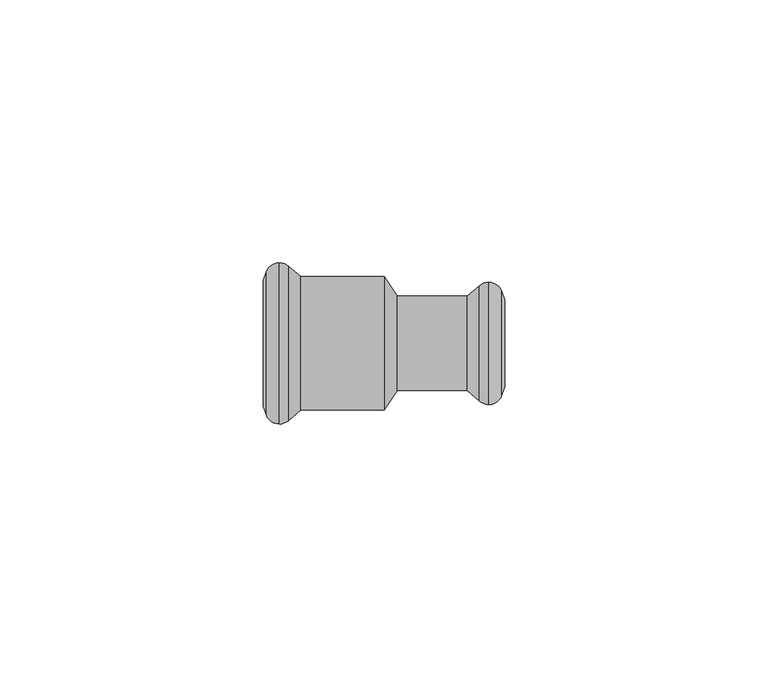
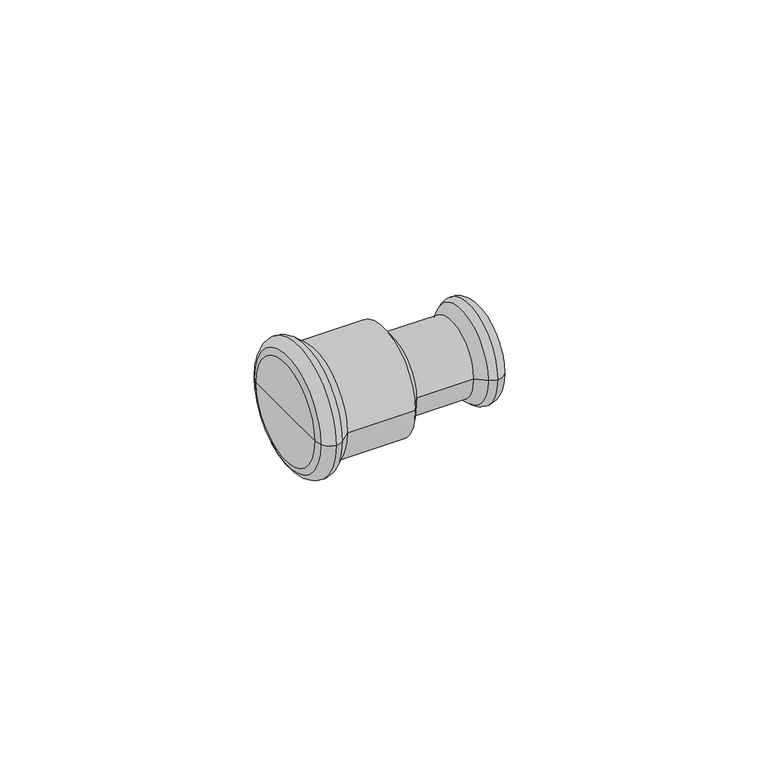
"""IFC4 building model written with IfcOpenShell, lengths in millimetres: pipe fitting geometry, KAN-therm Steel mufa redukcyjna : KAN-therm Steel mufa redukcyjna."""

from ifc_helpers import new_model, si_unit, point, frame, origin, place, context, project, spatial, polyline, circle_curve, ellipse_curve, trimmed, source, transform, mapped, element, save
from ifc_brep_helpers import plane_surface, cylinder_surface, revolved_surface, advanced_brep


def pipe_fitting_a91a79c0(model_context):
    return source(origin(), model_context, "Body", "AdvancedBrep", [
        advanced_brep(
        [(-15.7838092, -12.7, 0.0), (-15.7838092, 12.7, 0.0), (0.0, 12.7, 0.0), (0.0, -12.7, 0.0), (-18.0922627, -14.6370225, 0.0), (-18.0922627, 14.6370225, 0.0), (-19.8921278, -15.325, 0.0), (-19.8921278, 15.325, 0.0), (-22.432052, -13.5484544, 0.0), (-22.432052, 13.5484544, 0.0), (-23.0, -11.9880302, 0.0), (-23.0, 11.9880302, 0.0), (-23.0, 0.0, 0.0), (23.0, -8.2880302, 0.0), (23.0, 8.2880302, 0.0), (23.0, 0.0, 0.0), (22.432052, -9.8484544, 0.0), (22.432052, 9.8484544, 0.0), (19.8921278, -11.625, 0.0), (19.8921278, 11.625, 0.0), (18.0922627, -10.9370225, 0.0), (18.0922627, 10.9370225, 0.0), (15.7838092, -9.0, 0.0), (15.7838092, 9.0, 0.0), (2.5, -9.0, 0.0), (2.5, 9.0, 0.0)],
        [
            (0, 1, circle_curve(frame((-15.7838092, 0.0, 0.0), z_axis=(1.0, 0.0, 0.0), x_axis=(0.0, 1.0, 0.0)), 12.7)),
            (1, 2),
            (2, 3, circle_curve(frame((0.0, 0.0, 0.0), z_axis=(-1.0, 0.0, 0.0), x_axis=(0.0, 1.0, 0.0)), 12.7)),
            (3, 0),
            (1, 0, circle_curve(frame((-15.7838092, 0.0, 0.0), z_axis=(1.0, 0.0, 0.0), x_axis=(0.0, 1.0, 0.0)), 12.7)),
            (3, 2, circle_curve(frame((0.0, 0.0, 0.0), z_axis=(-1.0, 0.0, 0.0), x_axis=(0.0, 1.0, 0.0)), 12.7)),
            (4, 5, circle_curve(frame((-18.0922627, 0.0, 0.0), z_axis=(1.0, 0.0, 0.0), x_axis=(0.0, 1.0, 0.0)), 14.6370225)),
            (5, 1),
            (0, 4),
            (5, 4, circle_curve(frame((-18.0922627, 0.0, 0.0), z_axis=(1.0, 0.0, 0.0), x_axis=(0.0, 1.0, 0.0)), 14.6370225)),
            (6, 7, circle_curve(frame((-19.8921278, 0.0, 0.0), z_axis=(1.0, 0.0, 0.0), x_axis=(0.0, 1.0, 0.0)), 15.325)),
            (7, 5, circle_curve(frame((-19.8935049, 12.6230333, 0.0), z_axis=(0.0, 0.0, -1.0), x_axis=(1.0, 0.0, 0.0)), 2.701967)),
            (4, 6, circle_curve(frame((-19.8935049, -12.6230333, 0.0), z_axis=(0.0, 0.0, -1.0), x_axis=(1.0, 0.0, 0.0)), 2.701967)),
            (7, 6, circle_curve(frame((-19.8921278, 0.0, 0.0), z_axis=(1.0, 0.0, 0.0), x_axis=(0.0, 1.0, 0.0)), 15.325)),
            (8, 9, circle_curve(frame((-22.432052, 0.0, 0.0), z_axis=(1.0, 0.0, 0.0), x_axis=(0.0, 1.0, 0.0)), 13.5484544)),
            (9, 7, circle_curve(frame((-19.89488, 12.6249993, 0.0), z_axis=(0.0, 0.0, -1.0), x_axis=(1.0, 0.0, 0.0)), 2.7000021)),
            (6, 8, circle_curve(frame((-19.89488, -12.6249993, 0.0), z_axis=(0.0, 0.0, -1.0), x_axis=(1.0, 0.0, 0.0)), 2.7000021)),
            (9, 8, circle_curve(frame((-22.432052, 0.0, 0.0), z_axis=(1.0, 0.0, 0.0), x_axis=(0.0, 1.0, 0.0)), 13.5484544)),
            (10, 11, circle_curve(frame((-23.0, 0.0, 0.0), z_axis=(1.0, 0.0, 0.0), x_axis=(0.0, 1.0, 0.0)), 11.9880302)),
            (11, 9),
            (8, 10),
            (11, 10, circle_curve(frame((-23.0, 0.0, 0.0), z_axis=(1.0, 0.0, 0.0), x_axis=(0.0, 1.0, 0.0)), 11.9880302)),
            (12, 11),
            (10, 12),
            (13, 14, circle_curve(frame((23.0, 0.0, 0.0), z_axis=(1.0, 0.0, 0.0), x_axis=(0.0, 1.0, 0.0)), 8.2880302)),
            (14, 15),
            (15, 13),
            (14, 13, circle_curve(frame((23.0, 0.0, 0.0), z_axis=(1.0, 0.0, 0.0), x_axis=(0.0, 1.0, 0.0)), 8.2880302)),
            (16, 17, circle_curve(frame((22.432052, 0.0, 0.0), z_axis=(1.0, 0.0, 0.0), x_axis=(0.0, 1.0, 0.0)), 9.8484544)),
            (17, 14),
            (13, 16),
            (17, 16, circle_curve(frame((22.432052, 0.0, 0.0), z_axis=(1.0, 0.0, 0.0), x_axis=(0.0, 1.0, 0.0)), 9.8484544)),
            (18, 19, circle_curve(frame((19.8921278, 0.0, 0.0), z_axis=(1.0, 0.0, 0.0), x_axis=(0.0, 1.0, 0.0)), 11.625)),
            (19, 17, circle_curve(frame((19.89488, 8.9249993, 0.0), z_axis=(0.0, 0.0, -1.0), x_axis=(1.0, 0.0, 0.0)), 2.7000021)),
            (16, 18, circle_curve(frame((19.89488, -8.9249993, 0.0), z_axis=(0.0, 0.0, -1.0), x_axis=(1.0, 0.0, 0.0)), 2.7000021)),
            (19, 18, circle_curve(frame((19.8921278, 0.0, 0.0), z_axis=(1.0, 0.0, 0.0), x_axis=(0.0, 1.0, 0.0)), 11.625)),
            (20, 21, circle_curve(frame((18.0922627, 0.0, 0.0), z_axis=(1.0, 0.0, 0.0), x_axis=(0.0, 1.0, 0.0)), 10.9370225)),
            (21, 19, circle_curve(frame((19.8935049, 8.9230333, 0.0), z_axis=(0.0, 0.0, -1.0), x_axis=(1.0, 0.0, 0.0)), 2.701967)),
            (18, 20, circle_curve(frame((19.8935049, -8.9230333, 0.0), z_axis=(0.0, 0.0, -1.0), x_axis=(1.0, 0.0, 0.0)), 2.701967)),
            (21, 20, circle_curve(frame((18.0922627, 0.0, 0.0), z_axis=(1.0, 0.0, 0.0), x_axis=(0.0, 1.0, 0.0)), 10.9370225)),
            (22, 23, circle_curve(frame((15.7838092, 0.0, 0.0), z_axis=(1.0, 0.0, 0.0), x_axis=(0.0, 1.0, 0.0)), 9.0)),
            (23, 21),
            (20, 22),
            (23, 22, circle_curve(frame((15.7838092, 0.0, 0.0), z_axis=(1.0, 0.0, 0.0), x_axis=(0.0, 1.0, 0.0)), 9.0)),
            (24, 25, circle_curve(frame((2.5, 0.0, 0.0), z_axis=(1.0, 0.0, 0.0), x_axis=(0.0, 1.0, 0.0)), 9.0)),
            (25, 23),
            (22, 24),
            (25, 24, circle_curve(frame((2.5, 0.0, 0.0), z_axis=(1.0, 0.0, 0.0), x_axis=(0.0, 1.0, 0.0)), 9.0)),
            (2, 25),
            (24, 3),
        ],
        [
            cylinder_surface(frame((1336.742668, 0.0, 0.0), z_axis=(-1.0, 0.0, 0.0), x_axis=(0.0, 1.0, 0.0)), 12.7),
            revolved_surface(polyline([(-15.7838092, 12.7, 0.0), (-18.0922627, 14.6370225, 0.0)]), (1336.742668, 0.0, 0.0), (-1.0, 0.0, 0.0)),
            revolved_surface(trimmed(ellipse_curve(frame((-19.8935049, 12.6230333, 0.0), z_axis=(0.0, 0.0, 1.0), x_axis=(1.0, 0.0, 0.0)), 2.701967, 2.701967), [point((-18.0922627, 14.6370225, 0.0))], [point((-19.8921278, 15.325, 0.0))], True, "CARTESIAN"), (1336.742668, 0.0, 0.0), (-1.0, 0.0, 0.0)),
            revolved_surface(trimmed(ellipse_curve(frame((-19.89488, 12.6249993, 0.0), z_axis=(0.0, 0.0, 1.0), x_axis=(1.0, 0.0, 0.0)), 2.7000021, 2.7000021), [point((-19.8921278, 15.325, 0.0))], [point((-22.432052, 13.5484544, 0.0))], True, "CARTESIAN"), (1336.742668, 0.0, 0.0), (-1.0, 0.0, 0.0)),
            revolved_surface(polyline([(-22.432052, 13.5484544, 0.0), (-23.0, 11.9880302, 0.0)]), (1336.742668, 0.0, 0.0), (-1.0, 0.0, 0.0)),
            plane_surface(frame((-23.0, 0.0, 0.0), z_axis=(-1.0, 0.0, 0.0), x_axis=(0.0, 1.0, 0.0))),
            plane_surface(frame((23.0, 0.0, 0.0), z_axis=(1.0, 0.0, 0.0), x_axis=(0.0, 1.0, 0.0))),
            revolved_surface(polyline([(23.0, 8.2880302, 0.0), (22.432052, 9.8484544, 0.0)]), (1336.742668, 0.0, 0.0), (-1.0, 0.0, 0.0)),
            revolved_surface(trimmed(ellipse_curve(frame((19.89488, 8.9249993, 0.0), z_axis=(0.0, 0.0, 1.0), x_axis=(1.0, 0.0, 0.0)), 2.7000021, 2.7000021), [point((22.432052, 9.8484544, 0.0))], [point((19.8921278, 11.625, 0.0))], True, "CARTESIAN"), (1336.742668, 0.0, 0.0), (-1.0, 0.0, 0.0)),
            revolved_surface(trimmed(ellipse_curve(frame((19.8935049, 8.9230333, 0.0), z_axis=(0.0, 0.0, 1.0), x_axis=(1.0, 0.0, 0.0)), 2.701967, 2.701967), [point((19.8921278, 11.625, 0.0))], [point((18.0922627, 10.9370225, 0.0))], True, "CARTESIAN"), (1336.742668, 0.0, 0.0), (-1.0, 0.0, 0.0)),
            revolved_surface(polyline([(18.0922627, 10.9370225, 0.0), (15.7838092, 9.0, 0.0)]), (1336.742668, 0.0, 0.0), (-1.0, 0.0, 0.0)),
            cylinder_surface(frame((1336.742668, 0.0, 0.0), z_axis=(-1.0, 0.0, 0.0), x_axis=(0.0, 1.0, 0.0)), 9.0),
            revolved_surface(polyline([(2.5, 9.0, 0.0), (0.0, 12.7, 0.0)]), (1336.742668, 0.0, 0.0), (-1.0, 0.0, 0.0)),
        ],
        [
            (0, [[1, 2, 3, 4]]),
            (0, [[5, -4, 6, -2]]),
            (1, [[7, 8, -1, 9]]),
            (1, [[10, -9, -5, -8]]),
            (2, [[11, 12, -7, 13]]),
            (2, [[14, -13, -10, -12]]),
            (3, [[15, 16, -11, 17]]),
            (3, [[18, -17, -14, -16]]),
            (4, [[19, 20, -15, 21]]),
            (4, [[22, -21, -18, -20]]),
            (5, [[23, -19, 24]]),
            (5, [[-24, -22, -23]]),
            (6, [[25, 26, 27]]),
            (6, [[28, -27, -26]]),
            (7, [[29, 30, -25, 31]]),
            (7, [[32, -31, -28, -30]]),
            (8, [[33, 34, -29, 35]]),
            (8, [[36, -35, -32, -34]]),
            (9, [[37, 38, -33, 39]]),
            (9, [[40, -39, -36, -38]]),
            (10, [[41, 42, -37, 43]]),
            (10, [[44, -43, -40, -42]]),
            (11, [[45, 46, -41, 47]]),
            (11, [[48, -47, -44, -46]]),
            (12, [[-3, 49, -45, 50]]),
            (12, [[-6, -50, -48, -49]]),
        ],
    ),
    ])


if __name__ == "__main__":
    model = new_model("IFC4")
    model_context = context("Model", 3, world=origin())
    ifc_project = project(units=[si_unit("LENGTHUNIT", "METRE", prefix="MILLI")], contexts=[model_context])
    site = spatial("IfcSite", under=ifc_project)
    building = spatial("IfcBuilding", under=site)
    placement = place(None, origin())
    pipe_fitting_shape = pipe_fitting_a91a79c0(model_context)
    element("IfcPipeFitting", 1, ObjectType="KAN-therm Steel mufa redukcyjna : KAN-therm Steel mufa redukcyjna", at=placement, inside=building, context=model_context, shape_type="MappedRepresentation", body=[
        mapped(pipe_fitting_shape, transform((0.0, 0.0, 0.0), x_axis=(1.0, 0.0, 0.0), y_axis=(0.0, 1.0, 0.0), z_axis=(0.0, 0.0, 1.0))),
    ])
    save(model, "model.ifc")
